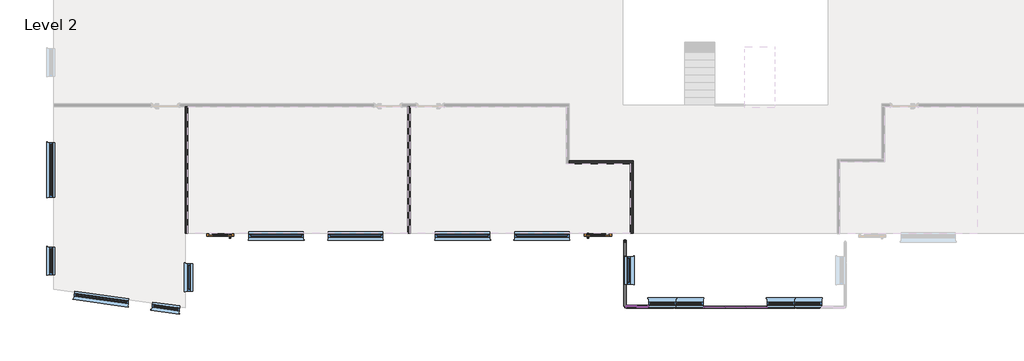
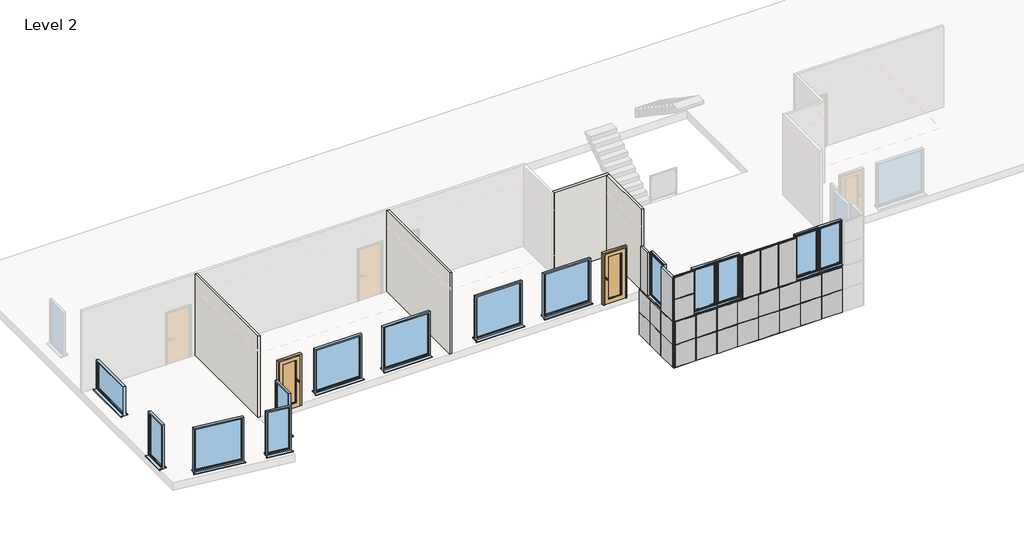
# One storey, part 1 of 7: 73 members, 29 plates, 14 windows, 4 walls, 2 doors.
"""IFC4 building model written with IfcOpenShell, lengths in millimetres."""

from ifc_helpers import new_model, si_unit, frame, origin, place, context, project, spatial, polyline, outline, extrude, faceted_brep, transform, mapped, element, save
from components import doors_extsgl_1_910x2110mm_628282a2, doors_extsgl_1_910x2110mm_947c59ca, rectangular_mullion_25x25mm_41fac21b, rectangular_mullion_25x25mm_c3a8d6dc, rectangular_mullion_25x25mm_6f424638, rectangular_mullion_25x25mm_78defac4, rectangular_mullion_25x25mm_003a9669, rectangular_mullion_25x25mm_920d8240, rectangular_mullion_25x25mm_82e2e498, rectangular_mullion_25x25mm_e35c5382, rectangular_mullion_25x25mm_6d395d07, rectangular_mullion_25x25mm_ba48c8dc, rectangular_mullion_25x25mm_1daffa3c, rectangular_mullion_25x25mm_6c57a8fc, rectangular_mullion_25x25mm_2d4ba261, rectangular_mullion_25x25mm_8c50469f, rectangular_mullion_25x25mm_42a5222e, rectangular_mullion_25x25mm_822b7fe3, rectangular_mullion_25x25mm_ea8cc668, rectangular_mullion_25x25mm_14c15364, rectangular_mullion_25x25mm_576a80d7, rectangular_mullion_25x25mm_7c56b39c, rectangular_mullion_25x25mm_fff97f92, curtain_panels_solid_solid_panel_green_16f00973, curtain_panels_solid_solid_panel_green_723635d2, curtain_panels_solid_solid_panel_green_d6ba0048, curtain_panels_solid_solid_panel_green_f877d991, curtain_panels_solid_solid_panel_green_c27fb083, curtain_panels_solid_solid_panel_green_146c5b7a, curtain_panels_solid_solid_panel_green_c8734c95, windows_sgl_plain_1810x1210mm_bf86ad2f, windows_sgl_plain_1810x1810mm_5434ce38, windows_sgl_plain_1810x1810mm_11d9b991, windows_sgl_plain_910x1810mm_bd75558e, windows_sgl_plain_910x1810mm_de3ea6c8, windows_sgl_plain_910x1810mm_eaa5caaf, windows_sgl_plain_910x1810mm_c05862ca

model = new_model("IFC4")

# Units and contexts
model_context = context("Model", 3, world=origin())
ifc_project = project(units=[si_unit("LENGTHUNIT", "METRE", prefix="MILLI")], contexts=[model_context])

# Site, building, storey
site = spatial("IfcSite", under=ifc_project)
building = spatial("IfcBuilding", under=site)
storey = spatial("IfcBuildingStorey", under=building, Name="Level 2", Elevation=7450.0)

# Doors
placement = place(None, origin())
doors_extsgl_1_910x2110mm_shape = doors_extsgl_1_910x2110mm_628282a2(model_context)
element("IfcDoor", 1, ObjectType="Doors_ExtSgl_1 : 910x2110mm", at=placement, inside=storey, context=model_context, shape_type="MappedRepresentation", body=[
    mapped(doors_extsgl_1_910x2110mm_shape, transform((4105.7942367, -3367.5053409, 7450.0), x_axis=(-1.0, 0.0, 0.0), y_axis=(0.0, -1.0, 0.0), z_axis=(0.0, 0.0, 1.0))),
])
doors_extsgl_1_910x2110mm_2_shape = doors_extsgl_1_910x2110mm_947c59ca(model_context)
element("IfcDoor", 2, ObjectType="Doors_ExtSgl_1 : 910x2110mm", at=placement, inside=storey, context=model_context, shape_type="MappedRepresentation", body=[
    mapped(doors_extsgl_1_910x2110mm_2_shape, transform((16660.7942367, -3367.5053409, 7450.0), x_axis=(1.0, 0.0, 0.0), y_axis=(0.0, 1.0, 0.0), z_axis=(0.0, 0.0, 1.0))),
])

# Members
rectangular_mullion_25x25mm_shape = rectangular_mullion_25x25mm_41fac21b(model_context)
element("IfcMember", 3, ObjectType="Rectangular Mullion : 25x25mm", at=placement, inside=storey, context=model_context, shape_type="MappedRepresentation", body=[
    mapped(rectangular_mullion_25x25mm_shape, transform((23244.1275698, -5717.5053409, 5885.0), x_axis=(-1.0, 0.0, 0.0), y_axis=(0.0, 1.0, 0.0), z_axis=(0.0, 0.0, -1.0))),
])
element("IfcMember", 4, ObjectType="Rectangular Mullion : 25x25mm", at=placement, inside=storey, context=model_context, shape_type="MappedRepresentation", body=[
    mapped(rectangular_mullion_25x25mm_shape, transform((22435.7942366, -5717.5053409, 5885.0), x_axis=(-1.0, 0.0, 0.0), y_axis=(0.0, 1.0, 0.0), z_axis=(0.0, 0.0, -1.0))),
])
element("IfcMember", 5, ObjectType="Rectangular Mullion : 25x25mm", at=placement, inside=storey, context=model_context, shape_type="MappedRepresentation", body=[
    mapped(rectangular_mullion_25x25mm_shape, transform((21627.4609033, -5717.5053409, 5885.0), x_axis=(-1.0, 0.0, 0.0), y_axis=(0.0, 1.0, 0.0), z_axis=(0.0, 0.0, -1.0))),
])
element("IfcMember", 6, ObjectType="Rectangular Mullion : 25x25mm", at=placement, inside=storey, context=model_context, shape_type="MappedRepresentation", body=[
    mapped(rectangular_mullion_25x25mm_shape, transform((20819.12757, -5717.5053409, 5885.0), x_axis=(-1.0, 0.0, 0.0), y_axis=(0.0, 1.0, 0.0), z_axis=(0.0, 0.0, -1.0))),
])
element("IfcMember", 7, ObjectType="Rectangular Mullion : 25x25mm", at=placement, inside=storey, context=model_context, shape_type="MappedRepresentation", body=[
    mapped(rectangular_mullion_25x25mm_shape, transform((20010.7942368, -5717.5053409, 5885.0), x_axis=(-1.0, 0.0, 0.0), y_axis=(0.0, 1.0, 0.0), z_axis=(0.0, 0.0, -1.0))),
])
element("IfcMember", 8, ObjectType="Rectangular Mullion : 25x25mm", at=placement, inside=storey, context=model_context, shape_type="MappedRepresentation", body=[
    mapped(rectangular_mullion_25x25mm_shape, transform((19202.4609035, -5717.5053409, 5885.0), x_axis=(-1.0, 0.0, 0.0), y_axis=(0.0, 1.0, 0.0), z_axis=(0.0, 0.0, -1.0))),
])
element("IfcMember", 9, ObjectType="Rectangular Mullion : 25x25mm", at=placement, inside=storey, context=model_context, shape_type="MappedRepresentation", body=[
    mapped(rectangular_mullion_25x25mm_shape, transform((18394.1275702, -5717.5053409, 5885.0), x_axis=(-1.0, 0.0, 0.0), y_axis=(0.0, 1.0, 0.0), z_axis=(0.0, 0.0, -1.0))),
])
element("IfcMember", 10, ObjectType="Rectangular Mullion : 25x25mm", at=placement, inside=storey, context=model_context, shape_type="MappedRepresentation", body=[
    mapped(rectangular_mullion_25x25mm_shape, transform((23244.1275698, -5717.5053409, 6805.0), x_axis=(-1.0, 0.0, 0.0), y_axis=(0.0, 1.0, 0.0), z_axis=(0.0, 0.0, -1.0))),
])
element("IfcMember", 11, ObjectType="Rectangular Mullion : 25x25mm", at=placement, inside=storey, context=model_context, shape_type="MappedRepresentation", body=[
    mapped(rectangular_mullion_25x25mm_shape, transform((22435.7942366, -5717.5053409, 6805.0), x_axis=(-1.0, 0.0, 0.0), y_axis=(0.0, 1.0, 0.0), z_axis=(0.0, 0.0, -1.0))),
])
element("IfcMember", 12, ObjectType="Rectangular Mullion : 25x25mm", at=placement, inside=storey, context=model_context, shape_type="MappedRepresentation", body=[
    mapped(rectangular_mullion_25x25mm_shape, transform((21627.4609033, -5717.5053409, 6805.0), x_axis=(-1.0, 0.0, 0.0), y_axis=(0.0, 1.0, 0.0), z_axis=(0.0, 0.0, -1.0))),
])
element("IfcMember", 13, ObjectType="Rectangular Mullion : 25x25mm", at=placement, inside=storey, context=model_context, shape_type="MappedRepresentation", body=[
    mapped(rectangular_mullion_25x25mm_shape, transform((20819.12757, -5717.5053409, 6805.0), x_axis=(-1.0, 0.0, 0.0), y_axis=(0.0, 1.0, 0.0), z_axis=(0.0, 0.0, -1.0))),
])
element("IfcMember", 14, ObjectType="Rectangular Mullion : 25x25mm", at=placement, inside=storey, context=model_context, shape_type="MappedRepresentation", body=[
    mapped(rectangular_mullion_25x25mm_shape, transform((20010.7942368, -5717.5053409, 6805.0), x_axis=(-1.0, 0.0, 0.0), y_axis=(0.0, 1.0, 0.0), z_axis=(0.0, 0.0, -1.0))),
])
element("IfcMember", 15, ObjectType="Rectangular Mullion : 25x25mm", at=placement, inside=storey, context=model_context, shape_type="MappedRepresentation", body=[
    mapped(rectangular_mullion_25x25mm_shape, transform((19202.4609035, -5717.5053409, 6805.0), x_axis=(-1.0, 0.0, 0.0), y_axis=(0.0, 1.0, 0.0), z_axis=(0.0, 0.0, -1.0))),
])
element("IfcMember", 16, ObjectType="Rectangular Mullion : 25x25mm", at=placement, inside=storey, context=model_context, shape_type="MappedRepresentation", body=[
    mapped(rectangular_mullion_25x25mm_shape, transform((18394.1275702, -5717.5053409, 6805.0), x_axis=(-1.0, 0.0, 0.0), y_axis=(0.0, 1.0, 0.0), z_axis=(0.0, 0.0, -1.0))),
])
rectangular_mullion_25x25mm_2_shape = rectangular_mullion_25x25mm_c3a8d6dc(model_context)
element("IfcMember", 17, ObjectType="Rectangular Mullion : 25x25mm", at=placement, inside=storey, context=model_context, shape_type="MappedRepresentation", body=[
    mapped(rectangular_mullion_25x25mm_2_shape, transform((17573.2942367, -5717.5053409, 5885.0), x_axis=(-1.0, 0.0, 0.0), y_axis=(0.0, 1.0, 0.0), z_axis=(0.0, 0.0, -1.0))),
])
element("IfcMember", 18, ObjectType="Rectangular Mullion : 25x25mm", at=placement, inside=storey, context=model_context, shape_type="MappedRepresentation", body=[
    mapped(rectangular_mullion_25x25mm_2_shape, transform((17573.2942367, -5717.5053409, 6805.0), x_axis=(-1.0, 0.0, 0.0), y_axis=(0.0, 1.0, 0.0), z_axis=(0.0, 0.0, -1.0))),
])
rectangular_mullion_25x25mm_3_shape = rectangular_mullion_25x25mm_6f424638(model_context)
element("IfcMember", 19, ObjectType="Rectangular Mullion : 25x25mm", at=placement, inside=storey, context=model_context, shape_type="MappedRepresentation", body=[
    mapped(rectangular_mullion_25x25mm_3_shape, transform((17573.2942367, -4210.005341, 5885.0), x_axis=(0.0, -1.0, 0.0), y_axis=(-1.0, 0.0, 0.0), z_axis=(0.0, 0.0, -1.0))),
])
element("IfcMember", 20, ObjectType="Rectangular Mullion : 25x25mm", at=placement, inside=storey, context=model_context, shape_type="MappedRepresentation", body=[
    mapped(rectangular_mullion_25x25mm_3_shape, transform((17573.2942367, -4957.5053408, 5885.0), x_axis=(0.0, -1.0, 0.0), y_axis=(-1.0, 0.0, 0.0), z_axis=(0.0, 0.0, -1.0))),
])
element("IfcMember", 21, ObjectType="Rectangular Mullion : 25x25mm", at=placement, inside=storey, context=model_context, shape_type="MappedRepresentation", body=[
    mapped(rectangular_mullion_25x25mm_3_shape, transform((17573.2942367, -4210.005341, 6805.0), x_axis=(0.0, -1.0, 0.0), y_axis=(-1.0, 0.0, 0.0), z_axis=(0.0, 0.0, -1.0))),
])
element("IfcMember", 22, ObjectType="Rectangular Mullion : 25x25mm", at=placement, inside=storey, context=model_context, shape_type="MappedRepresentation", body=[
    mapped(rectangular_mullion_25x25mm_3_shape, transform((17573.2942367, -4957.5053408, 6805.0), x_axis=(0.0, -1.0, 0.0), y_axis=(-1.0, 0.0, 0.0), z_axis=(0.0, 0.0, -1.0))),
])
rectangular_mullion_25x25mm_4_shape = rectangular_mullion_25x25mm_78defac4(model_context)
element("IfcMember", 23, ObjectType="Rectangular Mullion : 25x25mm", at=placement, inside=storey, context=model_context, shape_type="MappedRepresentation", body=[
    mapped(rectangular_mullion_25x25mm_4_shape, transform((17573.2942367, -5717.5053409, 5885.0), x_axis=(0.0, -1.0, 0.0), y_axis=(-1.0, 0.0, 0.0), z_axis=(0.0, 0.0, -1.0))),
])
element("IfcMember", 24, ObjectType="Rectangular Mullion : 25x25mm", at=placement, inside=storey, context=model_context, shape_type="MappedRepresentation", body=[
    mapped(rectangular_mullion_25x25mm_4_shape, transform((17573.2942367, -3475.0053409, 7725.0), x_axis=(0.0, 1.0, 0.0), y_axis=(-1.0, 0.0, 0.0), z_axis=(0.0, 0.0, 1.0))),
])
element("IfcMember", 25, ObjectType="Rectangular Mullion : 25x25mm", at=placement, inside=storey, context=model_context, shape_type="MappedRepresentation", body=[
    mapped(rectangular_mullion_25x25mm_4_shape, transform((17573.2942367, -5717.5053409, 6805.0), x_axis=(0.0, -1.0, 0.0), y_axis=(-1.0, 0.0, 0.0), z_axis=(0.0, 0.0, -1.0))),
])
element("IfcMember", 26, ObjectType="Rectangular Mullion : 25x25mm", at=placement, inside=storey, context=model_context, shape_type="MappedRepresentation", body=[
    mapped(rectangular_mullion_25x25mm_4_shape, transform((17573.2942367, -3475.0053409, 6805.0), x_axis=(0.0, 1.0, 0.0), y_axis=(-1.0, 0.0, 0.0), z_axis=(0.0, 0.0, 1.0))),
])
rectangular_mullion_25x25mm_5_shape = rectangular_mullion_25x25mm_003a9669(model_context)
element("IfcMember", 27, ObjectType="Rectangular Mullion : 25x25mm", at=placement, inside=storey, context=model_context, shape_type="MappedRepresentation", body=[
    mapped(rectangular_mullion_25x25mm_5_shape, transform((17573.2942367, -4210.005341, 7750.0), x_axis=(0.0, 0.0, 1.0), y_axis=(-1.0, 0.0, 0.0), z_axis=(0.0, -1.0, 0.0))),
])
rectangular_mullion_25x25mm_6_shape = rectangular_mullion_25x25mm_920d8240(model_context)
element("IfcMember", 28, ObjectType="Rectangular Mullion : 25x25mm", at=placement, inside=storey, context=model_context, shape_type="MappedRepresentation", body=[
    mapped(rectangular_mullion_25x25mm_6_shape, transform((17573.2942367, -4957.5053408, 7750.0), x_axis=(0.0, 0.0, 1.0), y_axis=(-1.0, 0.0, 0.0), z_axis=(0.0, -1.0, 0.0))),
])
element("IfcMember", 29, ObjectType="Rectangular Mullion : 25x25mm", at=placement, inside=storey, context=model_context, shape_type="MappedRepresentation", body=[
    mapped(rectangular_mullion_25x25mm_5_shape, transform((17573.2942367, -3475.0053409, 5860.0), x_axis=(0.0, 0.0, -1.0), y_axis=(-1.0, 0.0, 0.0), z_axis=(0.0, 1.0, 0.0))),
])
element("IfcMember", 30, ObjectType="Rectangular Mullion : 25x25mm", at=placement, inside=storey, context=model_context, shape_type="MappedRepresentation", body=[
    mapped(rectangular_mullion_25x25mm_6_shape, transform((17573.2942367, -4210.005341, 5860.0), x_axis=(0.0, 0.0, -1.0), y_axis=(-1.0, 0.0, 0.0), z_axis=(0.0, 1.0, 0.0))),
])
rectangular_mullion_25x25mm_7_shape = rectangular_mullion_25x25mm_82e2e498(model_context)
element("IfcMember", 31, ObjectType="Rectangular Mullion : 25x25mm", at=placement, inside=storey, context=model_context, shape_type="MappedRepresentation", body=[
    mapped(rectangular_mullion_25x25mm_7_shape, transform((17573.2942367, -4197.505341, 6805.0), x_axis=(0.0, 0.0, 1.0), y_axis=(-1.0, 0.0, 0.0), z_axis=(0.0, -1.0, 0.0))),
])
rectangular_mullion_25x25mm_8_shape = rectangular_mullion_25x25mm_e35c5382(model_context)
element("IfcMember", 32, ObjectType="Rectangular Mullion : 25x25mm", at=placement, inside=storey, context=model_context, shape_type="MappedRepresentation", body=[
    mapped(rectangular_mullion_25x25mm_8_shape, transform((17573.2942367, -4945.0053408, 6805.0), x_axis=(0.0, 0.0, 1.0), y_axis=(-1.0, 0.0, 0.0), z_axis=(0.0, -1.0, 0.0))),
])
element("IfcMember", 33, ObjectType="Rectangular Mullion : 25x25mm", at=placement, inside=storey, context=model_context, shape_type="MappedRepresentation", body=[
    mapped(rectangular_mullion_25x25mm_8_shape, transform((17573.2942367, -5692.5053409, 6805.0), x_axis=(0.0, 0.0, 1.0), y_axis=(-1.0, 0.0, 0.0), z_axis=(0.0, -1.0, 0.0))),
])
rectangular_mullion_25x25mm_9_shape = rectangular_mullion_25x25mm_6d395d07(model_context)
element("IfcMember", 34, ObjectType="Rectangular Mullion : 25x25mm", at=placement, inside=storey, context=model_context, shape_type="MappedRepresentation", body=[
    mapped(rectangular_mullion_25x25mm_9_shape, transform((20173.2942367, -5717.5053409, 9545.0349339), x_axis=(0.0, 0.0, 1.0), y_axis=(0.0, 1.0, 0.0), z_axis=(-1.0, 0.0, 0.0))),
])
element("IfcMember", 35, ObjectType="Rectangular Mullion : 25x25mm", at=placement, inside=storey, context=model_context, shape_type="MappedRepresentation", body=[
    mapped(rectangular_mullion_25x25mm_9_shape, transform((22288.2942367, -5717.5053409, 7750.0), x_axis=(0.0, 0.0, -1.0), y_axis=(0.0, 1.0, 0.0), z_axis=(1.0, 0.0, 0.0))),
])
element("IfcMember", 36, ObjectType="Rectangular Mullion : 25x25mm", at=placement, inside=storey, context=model_context, shape_type="MappedRepresentation", body=[
    mapped(rectangular_mullion_25x25mm_9_shape, transform((21579.1275699, -5717.5053409, 9545.0349339), x_axis=(0.0, 0.0, 1.0), y_axis=(0.0, 1.0, 0.0), z_axis=(-1.0, 0.0, 0.0))),
])
rectangular_mullion_25x25mm_10_shape = rectangular_mullion_25x25mm_ba48c8dc(model_context)
element("IfcMember", 37, ObjectType="Rectangular Mullion : 25x25mm", at=placement, inside=storey, context=model_context, shape_type="MappedRepresentation", body=[
    mapped(rectangular_mullion_25x25mm_10_shape, transform((20882.4609034, -5717.5053409, 9545.0349339), x_axis=(0.0, 0.0, 1.0), y_axis=(0.0, 1.0, 0.0), z_axis=(-1.0, 0.0, 0.0))),
])
element("IfcMember", 38, ObjectType="Rectangular Mullion : 25x25mm", at=placement, inside=storey, context=model_context, shape_type="MappedRepresentation", body=[
    mapped(rectangular_mullion_25x25mm_10_shape, transform((21579.1275699, -5717.5053409, 7750.0), x_axis=(0.0, 0.0, -1.0), y_axis=(0.0, 1.0, 0.0), z_axis=(1.0, 0.0, 0.0))),
])
element("IfcMember", 39, ObjectType="Rectangular Mullion : 25x25mm", at=placement, inside=storey, context=model_context, shape_type="MappedRepresentation", body=[
    mapped(rectangular_mullion_25x25mm_9_shape, transform((20882.4609034, -5717.5053409, 7750.0), x_axis=(0.0, 0.0, -1.0), y_axis=(0.0, 1.0, 0.0), z_axis=(1.0, 0.0, 0.0))),
])
rectangular_mullion_25x25mm_11_shape = rectangular_mullion_25x25mm_1daffa3c(model_context)
element("IfcMember", 40, ObjectType="Rectangular Mullion : 25x25mm", at=placement, inside=storey, context=model_context, shape_type="MappedRepresentation", body=[
    mapped(rectangular_mullion_25x25mm_11_shape, transform((17573.2942367, -5717.5053409, 9560.0), x_axis=(0.0, 0.0, 1.0), y_axis=(0.0, 1.0, 0.0), z_axis=(-1.0, 0.0, 0.0))),
])
element("IfcMember", 41, ObjectType="Rectangular Mullion : 25x25mm", at=placement, inside=storey, context=model_context, shape_type="MappedRepresentation", body=[
    mapped(rectangular_mullion_25x25mm_11_shape, transform((18348.2942367, -5717.5053409, 7725.0), x_axis=(0.0, 0.0, -1.0), y_axis=(0.0, 1.0, 0.0), z_axis=(1.0, 0.0, 0.0))),
])
rectangular_mullion_25x25mm_12_shape = rectangular_mullion_25x25mm_6c57a8fc(model_context)
element("IfcMember", 42, ObjectType="Rectangular Mullion : 25x25mm", at=placement, inside=storey, context=model_context, shape_type="MappedRepresentation", body=[
    mapped(rectangular_mullion_25x25mm_12_shape, transform((17598.2942367, -5717.5053409, 8642.5), x_axis=(0.0, 0.0, 1.0), y_axis=(0.0, 1.0, 0.0), z_axis=(-1.0, 0.0, 0.0))),
])
rectangular_mullion_25x25mm_13_shape = rectangular_mullion_25x25mm_2d4ba261(model_context)
element("IfcMember", 43, ObjectType="Rectangular Mullion : 25x25mm", at=placement, inside=storey, context=model_context, shape_type="MappedRepresentation", body=[
    mapped(rectangular_mullion_25x25mm_13_shape, transform((17573.2942367, -5717.5053409, 7750.0), x_axis=(-1.0, 0.0, 0.0), y_axis=(0.0, 1.0, 0.0), z_axis=(0.0, 0.0, -1.0))),
])
element("IfcMember", 44, ObjectType="Rectangular Mullion : 25x25mm", at=placement, inside=storey, context=model_context, shape_type="MappedRepresentation", body=[
    mapped(rectangular_mullion_25x25mm_13_shape, transform((18348.2942367, -5717.5053409, 9535.0), x_axis=(1.0, 0.0, 0.0), y_axis=(0.0, 1.0, 0.0), z_axis=(0.0, 0.0, 1.0))),
])
element("IfcMember", 45, ObjectType="Rectangular Mullion : 25x25mm", at=placement, inside=storey, context=model_context, shape_type="MappedRepresentation", body=[
    mapped(rectangular_mullion_25x25mm_13_shape, transform((17573.2942367, -5717.5053409, 8642.5), x_axis=(-1.0, 0.0, 0.0), y_axis=(0.0, 1.0, 0.0), z_axis=(0.0, 0.0, -1.0))),
])
element("IfcMember", 46, ObjectType="Rectangular Mullion : 25x25mm", at=placement, inside=storey, context=model_context, shape_type="MappedRepresentation", body=[
    mapped(rectangular_mullion_25x25mm_13_shape, transform((18348.2942367, -5717.5053409, 8642.5), x_axis=(1.0, 0.0, 0.0), y_axis=(0.0, 1.0, 0.0), z_axis=(0.0, 0.0, 1.0))),
])
rectangular_mullion_25x25mm_14_shape = rectangular_mullion_25x25mm_8c50469f(model_context)
element("IfcMember", 47, ObjectType="Rectangular Mullion : 25x25mm", at=placement, inside=storey, context=model_context, shape_type="MappedRepresentation", body=[
    mapped(rectangular_mullion_25x25mm_14_shape, transform((23244.1275698, -5717.5053409, 7750.0), x_axis=(0.0, 0.0, 1.0), y_axis=(0.0, 1.0, 0.0), z_axis=(-1.0, 0.0, 0.0))),
])
element("IfcMember", 48, ObjectType="Rectangular Mullion : 25x25mm", at=placement, inside=storey, context=model_context, shape_type="MappedRepresentation", body=[
    mapped(rectangular_mullion_25x25mm_14_shape, transform((22435.7942366, -5717.5053409, 7750.0), x_axis=(0.0, 0.0, 1.0), y_axis=(0.0, 1.0, 0.0), z_axis=(-1.0, 0.0, 0.0))),
])
element("IfcMember", 49, ObjectType="Rectangular Mullion : 25x25mm", at=placement, inside=storey, context=model_context, shape_type="MappedRepresentation", body=[
    mapped(rectangular_mullion_25x25mm_14_shape, transform((21627.4609033, -5717.5053409, 7750.0), x_axis=(0.0, 0.0, 1.0), y_axis=(0.0, 1.0, 0.0), z_axis=(-1.0, 0.0, 0.0))),
])
element("IfcMember", 50, ObjectType="Rectangular Mullion : 25x25mm", at=placement, inside=storey, context=model_context, shape_type="MappedRepresentation", body=[
    mapped(rectangular_mullion_25x25mm_14_shape, transform((20819.12757, -5717.5053409, 7750.0), x_axis=(0.0, 0.0, 1.0), y_axis=(0.0, 1.0, 0.0), z_axis=(-1.0, 0.0, 0.0))),
])
element("IfcMember", 51, ObjectType="Rectangular Mullion : 25x25mm", at=placement, inside=storey, context=model_context, shape_type="MappedRepresentation", body=[
    mapped(rectangular_mullion_25x25mm_14_shape, transform((20010.7942368, -5717.5053409, 7750.0), x_axis=(0.0, 0.0, 1.0), y_axis=(0.0, 1.0, 0.0), z_axis=(-1.0, 0.0, 0.0))),
])
element("IfcMember", 52, ObjectType="Rectangular Mullion : 25x25mm", at=placement, inside=storey, context=model_context, shape_type="MappedRepresentation", body=[
    mapped(rectangular_mullion_25x25mm_14_shape, transform((19202.4609035, -5717.5053409, 7750.0), x_axis=(0.0, 0.0, 1.0), y_axis=(0.0, 1.0, 0.0), z_axis=(-1.0, 0.0, 0.0))),
])
element("IfcMember", 53, ObjectType="Rectangular Mullion : 25x25mm", at=placement, inside=storey, context=model_context, shape_type="MappedRepresentation", body=[
    mapped(rectangular_mullion_25x25mm_14_shape, transform((18394.1275702, -5717.5053409, 7750.0), x_axis=(0.0, 0.0, 1.0), y_axis=(0.0, 1.0, 0.0), z_axis=(-1.0, 0.0, 0.0))),
])
element("IfcMember", 54, ObjectType="Rectangular Mullion : 25x25mm", at=placement, inside=storey, context=model_context, shape_type="MappedRepresentation", body=[
    mapped(rectangular_mullion_25x25mm_14_shape, transform((23244.1275698, -5717.5053409, 5860.0), x_axis=(0.0, 0.0, -1.0), y_axis=(0.0, 1.0, 0.0), z_axis=(1.0, 0.0, 0.0))),
])
element("IfcMember", 55, ObjectType="Rectangular Mullion : 25x25mm", at=placement, inside=storey, context=model_context, shape_type="MappedRepresentation", body=[
    mapped(rectangular_mullion_25x25mm_14_shape, transform((22435.7942366, -5717.5053409, 5860.0), x_axis=(0.0, 0.0, -1.0), y_axis=(0.0, 1.0, 0.0), z_axis=(1.0, 0.0, 0.0))),
])
element("IfcMember", 56, ObjectType="Rectangular Mullion : 25x25mm", at=placement, inside=storey, context=model_context, shape_type="MappedRepresentation", body=[
    mapped(rectangular_mullion_25x25mm_14_shape, transform((21627.4609033, -5717.5053409, 5860.0), x_axis=(0.0, 0.0, -1.0), y_axis=(0.0, 1.0, 0.0), z_axis=(1.0, 0.0, 0.0))),
])
element("IfcMember", 57, ObjectType="Rectangular Mullion : 25x25mm", at=placement, inside=storey, context=model_context, shape_type="MappedRepresentation", body=[
    mapped(rectangular_mullion_25x25mm_14_shape, transform((20819.12757, -5717.5053409, 5860.0), x_axis=(0.0, 0.0, -1.0), y_axis=(0.0, 1.0, 0.0), z_axis=(1.0, 0.0, 0.0))),
])
element("IfcMember", 58, ObjectType="Rectangular Mullion : 25x25mm", at=placement, inside=storey, context=model_context, shape_type="MappedRepresentation", body=[
    mapped(rectangular_mullion_25x25mm_14_shape, transform((20010.7942368, -5717.5053409, 5860.0), x_axis=(0.0, 0.0, -1.0), y_axis=(0.0, 1.0, 0.0), z_axis=(1.0, 0.0, 0.0))),
])
element("IfcMember", 59, ObjectType="Rectangular Mullion : 25x25mm", at=placement, inside=storey, context=model_context, shape_type="MappedRepresentation", body=[
    mapped(rectangular_mullion_25x25mm_14_shape, transform((19202.4609035, -5717.5053409, 5860.0), x_axis=(0.0, 0.0, -1.0), y_axis=(0.0, 1.0, 0.0), z_axis=(1.0, 0.0, 0.0))),
])
rectangular_mullion_25x25mm_15_shape = rectangular_mullion_25x25mm_42a5222e(model_context)
element("IfcMember", 60, ObjectType="Rectangular Mullion : 25x25mm", at=placement, inside=storey, context=model_context, shape_type="MappedRepresentation", body=[
    mapped(rectangular_mullion_25x25mm_15_shape, transform((23256.6275698, -5717.5053409, 6805.0), x_axis=(0.0, 0.0, 1.0), y_axis=(0.0, 1.0, 0.0), z_axis=(-1.0, 0.0, 0.0))),
])
element("IfcMember", 61, ObjectType="Rectangular Mullion : 25x25mm", at=placement, inside=storey, context=model_context, shape_type="MappedRepresentation", body=[
    mapped(rectangular_mullion_25x25mm_15_shape, transform((22448.2942366, -5717.5053409, 6805.0), x_axis=(0.0, 0.0, 1.0), y_axis=(0.0, 1.0, 0.0), z_axis=(-1.0, 0.0, 0.0))),
])
element("IfcMember", 62, ObjectType="Rectangular Mullion : 25x25mm", at=placement, inside=storey, context=model_context, shape_type="MappedRepresentation", body=[
    mapped(rectangular_mullion_25x25mm_15_shape, transform((21639.9609033, -5717.5053409, 6805.0), x_axis=(0.0, 0.0, 1.0), y_axis=(0.0, 1.0, 0.0), z_axis=(-1.0, 0.0, 0.0))),
])
element("IfcMember", 63, ObjectType="Rectangular Mullion : 25x25mm", at=placement, inside=storey, context=model_context, shape_type="MappedRepresentation", body=[
    mapped(rectangular_mullion_25x25mm_15_shape, transform((20831.62757, -5717.5053409, 6805.0), x_axis=(0.0, 0.0, 1.0), y_axis=(0.0, 1.0, 0.0), z_axis=(-1.0, 0.0, 0.0))),
])
element("IfcMember", 64, ObjectType="Rectangular Mullion : 25x25mm", at=placement, inside=storey, context=model_context, shape_type="MappedRepresentation", body=[
    mapped(rectangular_mullion_25x25mm_15_shape, transform((20023.2942368, -5717.5053409, 6805.0), x_axis=(0.0, 0.0, 1.0), y_axis=(0.0, 1.0, 0.0), z_axis=(-1.0, 0.0, 0.0))),
])
element("IfcMember", 65, ObjectType="Rectangular Mullion : 25x25mm", at=placement, inside=storey, context=model_context, shape_type="MappedRepresentation", body=[
    mapped(rectangular_mullion_25x25mm_15_shape, transform((19214.9609035, -5717.5053409, 6805.0), x_axis=(0.0, 0.0, 1.0), y_axis=(0.0, 1.0, 0.0), z_axis=(-1.0, 0.0, 0.0))),
])
element("IfcMember", 66, ObjectType="Rectangular Mullion : 25x25mm", at=placement, inside=storey, context=model_context, shape_type="MappedRepresentation", body=[
    mapped(rectangular_mullion_25x25mm_15_shape, transform((18406.6275702, -5717.5053409, 6805.0), x_axis=(0.0, 0.0, 1.0), y_axis=(0.0, 1.0, 0.0), z_axis=(-1.0, 0.0, 0.0))),
])
element("IfcMember", 67, ObjectType="Rectangular Mullion : 25x25mm", at=placement, inside=storey, context=model_context, shape_type="MappedRepresentation", body=[
    mapped(rectangular_mullion_25x25mm_15_shape, transform((17598.2942367, -5717.5053409, 6805.0), x_axis=(0.0, 0.0, 1.0), y_axis=(0.0, 1.0, 0.0), z_axis=(-1.0, 0.0, 0.0))),
])
rectangular_mullion_25x25mm_16_shape = rectangular_mullion_25x25mm_822b7fe3(model_context)
element("IfcMember", 68, ObjectType="Rectangular Mullion : 25x25mm", at=placement, inside=storey, context=model_context, shape_type="MappedRepresentation", body=[
    mapped(rectangular_mullion_25x25mm_16_shape, transform((17573.2942367, -5717.5053409, 7750.0), x_axis=(0.0, 0.0, 1.0), y_axis=(-1.0, 0.0, 0.0), z_axis=(0.0, -1.0, 0.0))),
])
rectangular_mullion_25x25mm_17_shape = rectangular_mullion_25x25mm_ea8cc668(model_context)
element("IfcMember", 69, ObjectType="Rectangular Mullion : 25x25mm", at=placement, inside=storey, context=model_context, shape_type="MappedRepresentation", body=[
    mapped(rectangular_mullion_25x25mm_17_shape, transform((17573.2942367, -5717.5053409, 7750.0), x_axis=(0.0, 0.0, 1.0), y_axis=(0.0, 1.0, 0.0), z_axis=(-1.0, 0.0, 0.0))),
])
rectangular_mullion_25x25mm_18_shape = rectangular_mullion_25x25mm_14c15364(model_context)
element("IfcMember", 70, ObjectType="Rectangular Mullion : 25x25mm", at=placement, inside=storey, context=model_context, shape_type="MappedRepresentation", body=[
    mapped(rectangular_mullion_25x25mm_18_shape, transform((18394.1275702, -5717.5053409, 5860.0), x_axis=(0.0, 0.0, -1.0), y_axis=(0.0, 1.0, 0.0), z_axis=(1.0, 0.0, 0.0))),
])
rectangular_mullion_25x25mm_19_shape = rectangular_mullion_25x25mm_576a80d7(model_context)
element("IfcMember", 71, ObjectType="Rectangular Mullion : 25x25mm", at=placement, inside=storey, context=model_context, shape_type="MappedRepresentation", body=[
    mapped(rectangular_mullion_25x25mm_19_shape, transform((17573.2942367, -4957.5053408, 5860.0), x_axis=(0.0, 0.0, -1.0), y_axis=(-1.0, 0.0, 0.0), z_axis=(0.0, 1.0, 0.0))),
])
rectangular_mullion_25x25mm_20_shape = rectangular_mullion_25x25mm_7c56b39c(model_context)
element("IfcMember", 72, ObjectType="Rectangular Mullion : 25x25mm", at=placement, inside=storey, context=model_context, shape_type="MappedRepresentation", body=[
    mapped(rectangular_mullion_25x25mm_20_shape, transform((21579.1275699, -5717.5053409, 7775.0), x_axis=(-1.0, 0.0, 0.0), y_axis=(0.0, 1.0, 0.0), z_axis=(0.0, 0.0, -1.0))),
])
element("IfcMember", 73, ObjectType="Rectangular Mullion : 25x25mm", at=placement, inside=storey, context=model_context, shape_type="MappedRepresentation", body=[
    mapped(rectangular_mullion_25x25mm_20_shape, transform((20882.4609034, -5717.5053409, 7775.0), x_axis=(-1.0, 0.0, 0.0), y_axis=(0.0, 1.0, 0.0), z_axis=(0.0, 0.0, -1.0))),
])
rectangular_mullion_25x25mm_21_shape = rectangular_mullion_25x25mm_fff97f92(model_context)
element("IfcMember", 74, ObjectType="Rectangular Mullion : 25x25mm", at=placement, inside=storey, context=model_context, shape_type="MappedRepresentation", body=[
    mapped(rectangular_mullion_25x25mm_21_shape, transform((20173.2942367, -5717.5053409, 7775.0), x_axis=(-1.0, 0.0, 0.0), y_axis=(0.0, 1.0, 0.0), z_axis=(0.0, 0.0, -1.0))),
])
element("IfcMember", 75, ObjectType="Rectangular Mullion : 25x25mm", at=placement, inside=storey, context=model_context, shape_type="MappedRepresentation", body=[
    mapped(rectangular_mullion_25x25mm_21_shape, transform((22288.2942367, -5717.5053409, 9520.0349339), x_axis=(1.0, 0.0, 0.0), y_axis=(0.0, 1.0, 0.0), z_axis=(0.0, 0.0, 1.0))),
])

# Plates
curtain_panels_solid_solid_panel_green_shape = curtain_panels_solid_solid_panel_green_16f00973(model_context)
element("IfcPlate", 76, ObjectType="Curtain_Panels_Solid : Solid_Panel_Green", at=placement, inside=storey, context=model_context, shape_type="MappedRepresentation", body=[
    mapped(curtain_panels_solid_solid_panel_green_shape, transform((17573.2942367, -5337.5053409, 7775.0), x_axis=(0.0, -1.0, 0.0), y_axis=(1.0, 0.0, 0.0), z_axis=(0.0, 0.0, 1.0))),
])
curtain_panels_solid_solid_panel_green_2_shape = curtain_panels_solid_solid_panel_green_723635d2(model_context)
element("IfcPlate", 77, ObjectType="Curtain_Panels_Solid : Solid_Panel_Green", at=placement, inside=storey, context=model_context, shape_type="MappedRepresentation", body=[
    mapped(curtain_panels_solid_solid_panel_green_2_shape, transform((17573.2942367, -3803.1303409, 7775.0), x_axis=(0.0, -1.0, 0.0), y_axis=(1.0, 0.0, 0.0), z_axis=(0.0, 0.0, 1.0))),
])
curtain_panels_solid_solid_panel_green_3_shape = curtain_panels_solid_solid_panel_green_d6ba0048(model_context)
element("IfcPlate", 78, ObjectType="Curtain_Panels_Solid : Solid_Panel_Green", at=placement, inside=storey, context=model_context, shape_type="MappedRepresentation", body=[
    mapped(curtain_panels_solid_solid_panel_green_3_shape, transform((17573.2942367, -3848.7553409, 5885.0), x_axis=(0.0, -1.0, 0.0), y_axis=(1.0, 0.0, 0.0), z_axis=(0.0, 0.0, 1.0))),
])
element("IfcPlate", 79, ObjectType="Curtain_Panels_Solid : Solid_Panel_Green", at=placement, inside=storey, context=model_context, shape_type="MappedRepresentation", body=[
    mapped(curtain_panels_solid_solid_panel_green_3_shape, transform((17573.2942367, -3848.7553409, 6817.5), x_axis=(0.0, -1.0, 0.0), y_axis=(1.0, 0.0, 0.0), z_axis=(0.0, 0.0, 1.0))),
])
curtain_panels_solid_solid_panel_green_4_shape = curtain_panels_solid_solid_panel_green_f877d991(model_context)
element("IfcPlate", 80, ObjectType="Curtain_Panels_Solid : Solid_Panel_Green", at=placement, inside=storey, context=model_context, shape_type="MappedRepresentation", body=[
    mapped(curtain_panels_solid_solid_panel_green_4_shape, transform((17573.2942367, -4583.7553409, 5885.0), x_axis=(0.0, -1.0, 0.0), y_axis=(1.0, 0.0, 0.0), z_axis=(0.0, 0.0, 1.0))),
])
element("IfcPlate", 81, ObjectType="Curtain_Panels_Solid : Solid_Panel_Green", at=placement, inside=storey, context=model_context, shape_type="MappedRepresentation", body=[
    mapped(curtain_panels_solid_solid_panel_green_4_shape, transform((17573.2942367, -5331.2553408, 5885.0), x_axis=(0.0, -1.0, 0.0), y_axis=(1.0, 0.0, 0.0), z_axis=(0.0, 0.0, 1.0))),
])
element("IfcPlate", 82, ObjectType="Curtain_Panels_Solid : Solid_Panel_Green", at=placement, inside=storey, context=model_context, shape_type="MappedRepresentation", body=[
    mapped(curtain_panels_solid_solid_panel_green_4_shape, transform((17573.2942367, -4583.7553409, 6817.5), x_axis=(0.0, -1.0, 0.0), y_axis=(1.0, 0.0, 0.0), z_axis=(0.0, 0.0, 1.0))),
])
element("IfcPlate", 83, ObjectType="Curtain_Panels_Solid : Solid_Panel_Green", at=placement, inside=storey, context=model_context, shape_type="MappedRepresentation", body=[
    mapped(curtain_panels_solid_solid_panel_green_4_shape, transform((17573.2942367, -5331.2553408, 6817.5), x_axis=(0.0, -1.0, 0.0), y_axis=(1.0, 0.0, 0.0), z_axis=(0.0, 0.0, 1.0))),
])
curtain_panels_solid_solid_panel_green_5_shape = curtain_panels_solid_solid_panel_green_c27fb083(model_context)
element("IfcPlate", 84, ObjectType="Curtain_Panels_Solid : Solid_Panel_Green", at=placement, inside=storey, context=model_context, shape_type="MappedRepresentation", body=[
    mapped(curtain_panels_solid_solid_panel_green_5_shape, transform((17960.7942367, -5717.5053409, 7750.0), x_axis=(-1.0, 0.0, 0.0), y_axis=(0.0, -1.0, 0.0), z_axis=(0.0, 0.0, 1.0))),
])
element("IfcPlate", 85, ObjectType="Curtain_Panels_Solid : Solid_Panel_Green", at=placement, inside=storey, context=model_context, shape_type="MappedRepresentation", body=[
    mapped(curtain_panels_solid_solid_panel_green_5_shape, transform((17960.7942367, -5717.5053409, 8655.0), x_axis=(-1.0, 0.0, 0.0), y_axis=(0.0, -1.0, 0.0), z_axis=(0.0, 0.0, 1.0))),
])
curtain_panels_solid_solid_panel_green_6_shape = curtain_panels_solid_solid_panel_green_146c5b7a(model_context)
element("IfcPlate", 86, ObjectType="Curtain_Panels_Solid : Solid_Panel_Green", at=placement, inside=storey, context=model_context, shape_type="MappedRepresentation", body=[
    mapped(curtain_panels_solid_solid_panel_green_6_shape, transform((23648.2942365, -5717.5053409, 5885.0), x_axis=(-1.0, 0.0, 0.0), y_axis=(0.0, -1.0, 0.0), z_axis=(0.0, 0.0, 1.0))),
])
element("IfcPlate", 87, ObjectType="Curtain_Panels_Solid : Solid_Panel_Green", at=placement, inside=storey, context=model_context, shape_type="MappedRepresentation", body=[
    mapped(curtain_panels_solid_solid_panel_green_6_shape, transform((22839.9609032, -5717.5053409, 5885.0), x_axis=(-1.0, 0.0, 0.0), y_axis=(0.0, -1.0, 0.0), z_axis=(0.0, 0.0, 1.0))),
])
element("IfcPlate", 88, ObjectType="Curtain_Panels_Solid : Solid_Panel_Green", at=placement, inside=storey, context=model_context, shape_type="MappedRepresentation", body=[
    mapped(curtain_panels_solid_solid_panel_green_6_shape, transform((23648.2942365, -5717.5053409, 6817.5), x_axis=(-1.0, 0.0, 0.0), y_axis=(0.0, -1.0, 0.0), z_axis=(0.0, 0.0, 1.0))),
])
element("IfcPlate", 89, ObjectType="Curtain_Panels_Solid : Solid_Panel_Green", at=placement, inside=storey, context=model_context, shape_type="MappedRepresentation", body=[
    mapped(curtain_panels_solid_solid_panel_green_6_shape, transform((22839.9609032, -5717.5053409, 6817.5), x_axis=(-1.0, 0.0, 0.0), y_axis=(0.0, -1.0, 0.0), z_axis=(0.0, 0.0, 1.0))),
])
element("IfcPlate", 90, ObjectType="Curtain_Panels_Solid : Solid_Panel_Green", at=placement, inside=storey, context=model_context, shape_type="MappedRepresentation", body=[
    mapped(curtain_panels_solid_solid_panel_green_6_shape, transform((22031.6275699, -5717.5053409, 5885.0), x_axis=(-1.0, 0.0, 0.0), y_axis=(0.0, -1.0, 0.0), z_axis=(0.0, 0.0, 1.0))),
])
element("IfcPlate", 91, ObjectType="Curtain_Panels_Solid : Solid_Panel_Green", at=placement, inside=storey, context=model_context, shape_type="MappedRepresentation", body=[
    mapped(curtain_panels_solid_solid_panel_green_6_shape, transform((22031.6275699, -5717.5053409, 6817.5), x_axis=(-1.0, 0.0, 0.0), y_axis=(0.0, -1.0, 0.0), z_axis=(0.0, 0.0, 1.0))),
])
element("IfcPlate", 92, ObjectType="Curtain_Panels_Solid : Solid_Panel_Green", at=placement, inside=storey, context=model_context, shape_type="MappedRepresentation", body=[
    mapped(curtain_panels_solid_solid_panel_green_6_shape, transform((21223.2942367, -5717.5053409, 5885.0), x_axis=(-1.0, 0.0, 0.0), y_axis=(0.0, -1.0, 0.0), z_axis=(0.0, 0.0, 1.0))),
])
element("IfcPlate", 93, ObjectType="Curtain_Panels_Solid : Solid_Panel_Green", at=placement, inside=storey, context=model_context, shape_type="MappedRepresentation", body=[
    mapped(curtain_panels_solid_solid_panel_green_6_shape, transform((21223.2942367, -5717.5053409, 6817.5), x_axis=(-1.0, 0.0, 0.0), y_axis=(0.0, -1.0, 0.0), z_axis=(0.0, 0.0, 1.0))),
])
element("IfcPlate", 94, ObjectType="Curtain_Panels_Solid : Solid_Panel_Green", at=placement, inside=storey, context=model_context, shape_type="MappedRepresentation", body=[
    mapped(curtain_panels_solid_solid_panel_green_6_shape, transform((20414.9609034, -5717.5053409, 5885.0), x_axis=(-1.0, 0.0, 0.0), y_axis=(0.0, -1.0, 0.0), z_axis=(0.0, 0.0, 1.0))),
])
element("IfcPlate", 95, ObjectType="Curtain_Panels_Solid : Solid_Panel_Green", at=placement, inside=storey, context=model_context, shape_type="MappedRepresentation", body=[
    mapped(curtain_panels_solid_solid_panel_green_6_shape, transform((20414.9609034, -5717.5053409, 6817.5), x_axis=(-1.0, 0.0, 0.0), y_axis=(0.0, -1.0, 0.0), z_axis=(0.0, 0.0, 1.0))),
])
element("IfcPlate", 96, ObjectType="Curtain_Panels_Solid : Solid_Panel_Green", at=placement, inside=storey, context=model_context, shape_type="MappedRepresentation", body=[
    mapped(curtain_panels_solid_solid_panel_green_6_shape, transform((19606.6275701, -5717.5053409, 5885.0), x_axis=(-1.0, 0.0, 0.0), y_axis=(0.0, -1.0, 0.0), z_axis=(0.0, 0.0, 1.0))),
])
element("IfcPlate", 97, ObjectType="Curtain_Panels_Solid : Solid_Panel_Green", at=placement, inside=storey, context=model_context, shape_type="MappedRepresentation", body=[
    mapped(curtain_panels_solid_solid_panel_green_6_shape, transform((19606.6275701, -5717.5053409, 6817.5), x_axis=(-1.0, 0.0, 0.0), y_axis=(0.0, -1.0, 0.0), z_axis=(0.0, 0.0, 1.0))),
])
element("IfcPlate", 98, ObjectType="Curtain_Panels_Solid : Solid_Panel_Green", at=placement, inside=storey, context=model_context, shape_type="MappedRepresentation", body=[
    mapped(curtain_panels_solid_solid_panel_green_6_shape, transform((18798.2942369, -5717.5053409, 5885.0), x_axis=(-1.0, 0.0, 0.0), y_axis=(0.0, -1.0, 0.0), z_axis=(0.0, 0.0, 1.0))),
])
element("IfcPlate", 99, ObjectType="Curtain_Panels_Solid : Solid_Panel_Green", at=placement, inside=storey, context=model_context, shape_type="MappedRepresentation", body=[
    mapped(curtain_panels_solid_solid_panel_green_6_shape, transform((18798.2942369, -5717.5053409, 6817.5), x_axis=(-1.0, 0.0, 0.0), y_axis=(0.0, -1.0, 0.0), z_axis=(0.0, 0.0, 1.0))),
])
element("IfcPlate", 100, ObjectType="Curtain_Panels_Solid : Solid_Panel_Green", at=placement, inside=storey, context=model_context, shape_type="MappedRepresentation", body=[
    mapped(curtain_panels_solid_solid_panel_green_6_shape, transform((17989.9609035, -5717.5053409, 5885.0), x_axis=(-1.0, 0.0, 0.0), y_axis=(0.0, -1.0, 0.0), z_axis=(0.0, 0.0, 1.0))),
])
element("IfcPlate", 101, ObjectType="Curtain_Panels_Solid : Solid_Panel_Green", at=placement, inside=storey, context=model_context, shape_type="MappedRepresentation", body=[
    mapped(curtain_panels_solid_solid_panel_green_6_shape, transform((17989.9609035, -5717.5053409, 6817.5), x_axis=(-1.0, 0.0, 0.0), y_axis=(0.0, -1.0, 0.0), z_axis=(0.0, 0.0, 1.0))),
])
curtain_panels_solid_solid_panel_green_7_shape = curtain_panels_solid_solid_panel_green_c8734c95(model_context)
element("IfcPlate", 102, ObjectType="Curtain_Panels_Solid : Solid_Panel_Green", at=placement, inside=storey, context=model_context, shape_type="MappedRepresentation", body=[
    mapped(curtain_panels_solid_solid_panel_green_7_shape, transform((21927.4609033, -5717.5053409, 7775.0), x_axis=(-1.0, 0.0, 0.0), y_axis=(0.0, -1.0, 0.0), z_axis=(0.0, 0.0, 1.0))),
])
element("IfcPlate", 103, ObjectType="Curtain_Panels_Solid : Solid_Panel_Green", at=placement, inside=storey, context=model_context, shape_type="MappedRepresentation", body=[
    mapped(curtain_panels_solid_solid_panel_green_7_shape, transform((21230.7942367, -5717.5053409, 7775.0), x_axis=(-1.0, 0.0, 0.0), y_axis=(0.0, -1.0, 0.0), z_axis=(0.0, 0.0, 1.0))),
])
element("IfcPlate", 104, ObjectType="Curtain_Panels_Solid : Solid_Panel_Green", at=placement, inside=storey, context=model_context, shape_type="MappedRepresentation", body=[
    mapped(curtain_panels_solid_solid_panel_green_7_shape, transform((20534.1275701, -5717.5053409, 7775.0), x_axis=(-1.0, 0.0, 0.0), y_axis=(0.0, -1.0, 0.0), z_axis=(0.0, 0.0, 1.0))),
])

# Walls
element("IfcWall", 105, ObjectType="Wall-Partn_12P-70MStd-12P", at=placement, inside=storey, context=model_context, shape_type="SweptSolid", body=[
    extrude(outline(polyline([(3030.7942367, 939.9946591), (3030.7942367, -3259.5053409), (2935.7942367, -3259.5053409), (2935.7942367, 939.9946591), (3030.7942367, 939.9946591)])), frame((0.0, 0.0, 7450.0), z_axis=(0.0, 0.0, 1.0), x_axis=(1.0, 0.0, 0.0)), (0.0, 0.0, 1.0), 3315.0),
])
element("IfcWall", 106, ObjectType="Wall-Partn_12P-70MStd-12P", at=placement, inside=storey, context=model_context, shape_type="Brep", body=[
    faceted_brep([(15705.7942367, -955.0053409, 7450.0), (17735.7942367, -955.0053409, 7450.0), (17830.7942367, -955.0053409, 7450.0), (17830.7942367, -955.0053409, 10765.0), (17735.7942367, -955.0053409, 10765.0), (15705.7942367, -955.0053409, 10765.0), (15705.7942367, -860.0053409, 7450.0), (15705.7942367, -860.0053409, 10765.0), (17830.7942367, -860.0053409, 10765.0), (17830.7942367, -860.0053409, 7450.0)], [[[0, 1, 2, 3, 4, 5]], [[6, 7, 8, 9]], [[2, 1, 0, 6, 9]], [[5, 4, 3, 8, 7]], [[0, 5, 7, 6]], [[3, 2, 9, 8]]]),
])
element("IfcWall", 107, ObjectType="Wall-Partn_12P-70MStd-12P", at=placement, inside=storey, context=model_context, shape_type="SweptSolid", body=[
    extrude(outline(polyline([(17735.7942367, -3259.5053409), (17735.7942367, -955.0053409), (17830.7942367, -955.0053409), (17830.7942367, -3259.5053409), (17735.7942367, -3259.5053409)])), frame((0.0, 0.0, 7450.0), z_axis=(0.0, 0.0, 1.0), x_axis=(1.0, 0.0, 0.0)), (0.0, 0.0, 1.0), 3315.0),
])
element("IfcWall", 108, ObjectType="Wall-Partn_12P-70MStd-12P", at=placement, inside=storey, context=model_context, shape_type="SweptSolid", body=[
    extrude(outline(polyline([(10430.7942367, 939.9946591), (10430.7942367, -3259.5053409), (10335.7942367, -3259.5053409), (10335.7942367, 939.9946591), (10430.7942367, 939.9946591)])), frame((0.0, 0.0, 7450.0), z_axis=(0.0, 0.0, 1.0), x_axis=(1.0, 0.0, 0.0)), (0.0, 0.0, 1.0), 3315.0),
])

# Windows
windows_sgl_plain_1810x1210mm_shape = windows_sgl_plain_1810x1210mm_bf86ad2f(model_context)
element("IfcWindow", 109, ObjectType="Windows_Sgl_Plain : 1810x1210mm", at=placement, inside=storey, context=model_context, shape_type="MappedRepresentation", body=[
    mapped(windows_sgl_plain_1810x1210mm_shape, transform((-1545.17889, -1160.0053409, 7450.0), x_axis=(0.0, -1.0, 0.0), y_axis=(1.0, 0.0, 0.0), z_axis=(0.0, 0.0, 1.0))),
])
windows_sgl_plain_1810x1810mm_shape = windows_sgl_plain_1810x1810mm_5434ce38(model_context)
element("IfcWindow", 110, ObjectType="Windows_Sgl_Plain : 1810x1810mm", at=placement, inside=storey, context=model_context, shape_type="MappedRepresentation", body=[
    mapped(windows_sgl_plain_1810x1810mm_shape, transform((5965.7942367, -3375.9619087, 7450.0), x_axis=(1.0, 0.0, 0.0), y_axis=(0.0, 1.0, 0.0), z_axis=(0.0, 0.0, 1.0))),
])
element("IfcWindow", 111, ObjectType="Windows_Sgl_Plain : 1810x1810mm", at=placement, inside=storey, context=model_context, shape_type="MappedRepresentation", body=[
    mapped(windows_sgl_plain_1810x1810mm_shape, transform((8603.2942367, -3375.9619087, 7450.0), x_axis=(1.0, 0.0, 0.0), y_axis=(0.0, 1.0, 0.0), z_axis=(0.0, 0.0, 1.0))),
])
element("IfcWindow", 112, ObjectType="Windows_Sgl_Plain : 1810x1810mm", at=placement, inside=storey, context=model_context, shape_type="MappedRepresentation", body=[
    mapped(windows_sgl_plain_1810x1810mm_shape, transform((145.0915172, -5468.7291869, 7450.0), x_axis=(0.9902680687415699, -0.13917310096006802, 0.0), y_axis=(0.13917310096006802, 0.9902680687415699, 0.0), z_axis=(0.0, 0.0, 1.0))),
])
windows_sgl_plain_1810x1810mm_2_shape = windows_sgl_plain_1810x1810mm_11d9b991(model_context)
element("IfcWindow", 113, ObjectType="Windows_Sgl_Plain : 1810x1810mm", at=placement, inside=storey, context=model_context, shape_type="MappedRepresentation", body=[
    mapped(windows_sgl_plain_1810x1810mm_2_shape, transform((14800.7942367, -3375.9619087, 7450.0), x_axis=(-1.0, 0.0, 0.0), y_axis=(0.0, -1.0, 0.0), z_axis=(0.0, 0.0, 1.0))),
])
element("IfcWindow", 114, ObjectType="Windows_Sgl_Plain : 1810x1810mm", at=placement, inside=storey, context=model_context, shape_type="MappedRepresentation", body=[
    mapped(windows_sgl_plain_1810x1810mm_2_shape, transform((12163.2942367, -3375.9619087, 7450.0), x_axis=(-1.0, 0.0, 0.0), y_axis=(0.0, -1.0, 0.0), z_axis=(0.0, 0.0, 1.0))),
])
windows_sgl_plain_910x1810mm_shape = windows_sgl_plain_910x1810mm_bd75558e(model_context)
element("IfcWindow", 115, ObjectType="Windows_Sgl_Plain : 910x1810mm", at=placement, inside=storey, context=model_context, shape_type="MappedRepresentation", body=[
    mapped(windows_sgl_plain_910x1810mm_shape, transform((3034.8376688, -4733.0053409, 7450.0), x_axis=(0.0, -1.0, 0.0), y_axis=(1.0, 0.0, 0.0), z_axis=(0.0, 0.0, 1.0))),
])
element("IfcWindow", 116, ObjectType="Windows_Sgl_Plain : 910x1810mm", at=placement, inside=storey, context=model_context, shape_type="MappedRepresentation", body=[
    mapped(windows_sgl_plain_910x1810mm_shape, transform((2291.0024222, -5770.3172967, 7450.0), x_axis=(0.9902680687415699, -0.13917310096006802, 0.0), y_axis=(0.13917310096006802, 0.9902680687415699, 0.0), z_axis=(0.0, 0.0, 1.0))),
])
windows_sgl_plain_910x1810mm_2_shape = windows_sgl_plain_910x1810mm_de3ea6c8(model_context)
element("IfcWindow", 117, ObjectType="Windows_Sgl_Plain : 910x1810mm", at=placement, inside=storey, context=model_context, shape_type="MappedRepresentation", body=[
    mapped(windows_sgl_plain_910x1810mm_2_shape, transform((-1545.17889, -4187.0053409, 7450.0), x_axis=(0.0, 1.0, 0.0), y_axis=(-1.0, 0.0, 0.0), z_axis=(0.0, 0.0, 1.0))),
])
windows_sgl_plain_910x1810mm_3_shape = windows_sgl_plain_910x1810mm_eaa5caaf(model_context)
element("IfcWindow", 118, ObjectType="Windows_Sgl_Plain : 910x1810mm", at=placement, inside=storey, context=model_context, shape_type="MappedRepresentation", body=[
    mapped(windows_sgl_plain_910x1810mm_3_shape, transform((17731.7508045, -4501.2553409, 7450.0), x_axis=(0.0, 1.0, 0.0), y_axis=(-1.0, 0.0, 0.0), z_axis=(0.0, 0.0, 1.0))),
])
element("IfcWindow", 119, ObjectType="Windows_Sgl_Plain : 910x1810mm", at=placement, inside=storey, context=model_context, shape_type="MappedRepresentation", body=[
    mapped(windows_sgl_plain_910x1810mm_3_shape, transform((18803.2942367, -5559.048773, 7450.0), x_axis=(-1.0, 0.0, 0.0), y_axis=(0.0, -1.0, 0.0), z_axis=(0.0, 0.0, 1.0))),
])
element("IfcWindow", 120, ObjectType="Windows_Sgl_Plain : 910x1810mm", at=placement, inside=storey, context=model_context, shape_type="MappedRepresentation", body=[
    mapped(windows_sgl_plain_910x1810mm_3_shape, transform((19703.2942367, -5559.048773, 7450.0), x_axis=(-1.0, 0.0, 0.0), y_axis=(0.0, -1.0, 0.0), z_axis=(0.0, 0.0, 1.0))),
])
windows_sgl_plain_910x1810mm_4_shape = windows_sgl_plain_910x1810mm_c05862ca(model_context)
element("IfcWindow", 121, ObjectType="Windows_Sgl_Plain : 910x1810mm", at=placement, inside=storey, context=model_context, shape_type="MappedRepresentation", body=[
    mapped(windows_sgl_plain_910x1810mm_4_shape, transform((23643.2942367, -5559.048773, 7450.0), x_axis=(1.0, 0.0, 0.0), y_axis=(0.0, 1.0, 0.0), z_axis=(0.0, 0.0, 1.0))),
])
element("IfcWindow", 122, ObjectType="Windows_Sgl_Plain : 910x1810mm", at=placement, inside=storey, context=model_context, shape_type="MappedRepresentation", body=[
    mapped(windows_sgl_plain_910x1810mm_4_shape, transform((22743.2942367, -5559.048773, 7450.0), x_axis=(1.0, 0.0, 0.0), y_axis=(0.0, 1.0, 0.0), z_axis=(0.0, 0.0, 1.0))),
])

save(model, "model.ifc")
